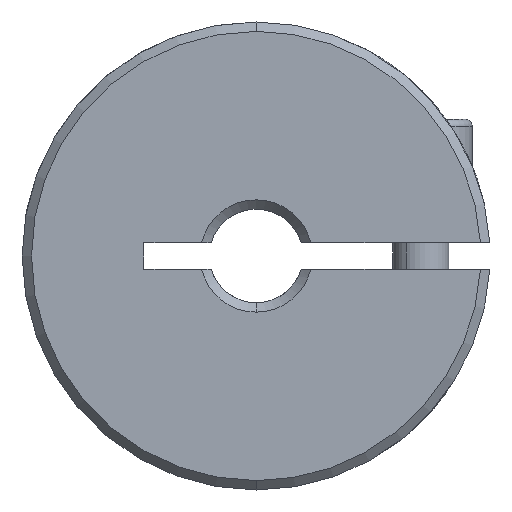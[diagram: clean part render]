
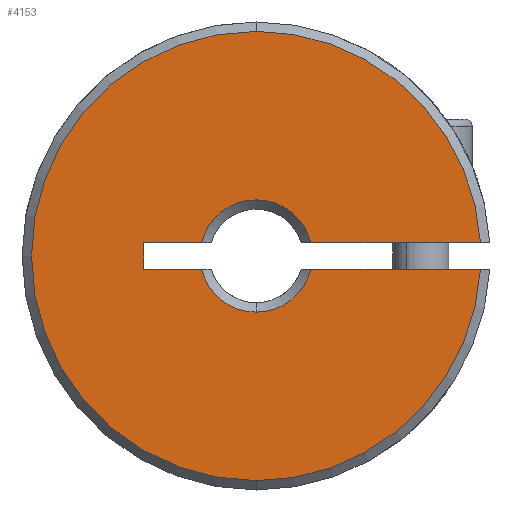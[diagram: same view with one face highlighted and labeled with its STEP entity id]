
A CAD part, front view. The second image highlights one B-rep face of the part: STEP entity #4153.
In plain terms, the highlighted planar face has unit normal (0, -1, 0).
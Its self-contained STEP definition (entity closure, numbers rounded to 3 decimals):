
#56 = LINE ( 'NONE', #4894, #616 ) ;
#105 = EDGE_LOOP ( 'NONE', ( #4904, #1041, #5617, #134, #2887, #4868, #2753, #501, #3084, #5427, #2677 ) ) ;
#118 = LINE ( 'NONE', #3620, #4687 ) ;
#134 = ORIENTED_EDGE ( 'NONE', *, *, #960, .T. ) ;
#153 = CARTESIAN_POINT ( 'NONE',  ( 2.917, 0.25, 0.7 ) ) ;
#177 = VERTEX_POINT ( 'NONE', #4846 ) ;
#233 = CIRCLE ( 'NONE', #959, 3. ) ;
#275 = AXIS2_PLACEMENT_3D ( 'NONE', #2443, #5544, #5428 ) ;
#326 = VERTEX_POINT ( 'NONE', #1557 ) ;
#335 = CARTESIAN_POINT ( 'NONE',  ( 0., 0.25, 0. ) ) ;
#489 = CARTESIAN_POINT ( 'NONE',  ( -2.917, 0.25, -0.7 ) ) ;
#501 = ORIENTED_EDGE ( 'NONE', *, *, #5461, .T. ) ;
#616 = VECTOR ( 'NONE', #895, 1000. ) ;
#663 = VERTEX_POINT ( 'NONE', #3890 ) ;
#674 = VERTEX_POINT ( 'NONE', #4807 ) ;
#766 = CARTESIAN_POINT ( 'NONE',  ( -6., 0.25, -0.7 ) ) ;
#885 = VECTOR ( 'NONE', #1690, 1000. ) ;
#886 = VERTEX_POINT ( 'NONE', #489 ) ;
#895 = DIRECTION ( 'NONE',  ( 0., 0., -1. ) ) ;
#927 = VERTEX_POINT ( 'NONE', #2259 ) ;
#959 = AXIS2_PLACEMENT_3D ( 'NONE', #1828, #1915, #2231 ) ;
#960 = EDGE_CURVE ( 'NONE', #663, #177, #1942, .T. ) ;
#1041 = ORIENTED_EDGE ( 'NONE', *, *, #3596, .T. ) ;
#1168 = CARTESIAN_POINT ( 'NONE',  ( -6., 0.25, 0.7 ) ) ;
#1230 = CIRCLE ( 'NONE', #4806, 12. ) ;
#1295 = VECTOR ( 'NONE', #5085, 1000. ) ;
#1412 = DIRECTION ( 'NONE',  ( 1., 0., 0. ) ) ;
#1501 = FACE_OUTER_BOUND ( 'NONE', #105, .T. ) ;
#1557 = CARTESIAN_POINT ( 'NONE',  ( 0., 0.25, -3. ) ) ;
#1650 = DIRECTION ( 'NONE',  ( 0., 1., 0. ) ) ;
#1690 = DIRECTION ( 'NONE',  ( 1., 0., 0. ) ) ;
#1702 = EDGE_CURVE ( 'NONE', #674, #886, #118, .T. ) ;
#1744 = LINE ( 'NONE', #2175, #4187 ) ;
#1828 = CARTESIAN_POINT ( 'NONE',  ( 0., 0.25, 0. ) ) ;
#1830 = DIRECTION ( 'NONE',  ( 0., -1., 0. ) ) ;
#1885 = EDGE_CURVE ( 'NONE', #927, #3624, #1744, .T. ) ;
#1915 = DIRECTION ( 'NONE',  ( 0., 1., 0. ) ) ;
#1942 = CIRCLE ( 'NONE', #5516, 12. ) ;
#2003 = CARTESIAN_POINT ( 'NONE',  ( 0., 0.25, -12. ) ) ;
#2009 = CARTESIAN_POINT ( 'NONE',  ( 0., 0.25, 0. ) ) ;
#2161 = DIRECTION ( 'NONE',  ( 0., 0., 1. ) ) ;
#2175 = CARTESIAN_POINT ( 'NONE',  ( -6., 0.25, 0.7 ) ) ;
#2231 = DIRECTION ( 'NONE',  ( 0., 0., 1. ) ) ;
#2259 = CARTESIAN_POINT ( 'NONE',  ( -2.917, 0.25, 0.7 ) ) ;
#2317 = EDGE_CURVE ( 'NONE', #3624, #674, #56, .T. ) ;
#2390 = LINE ( 'NONE', #1168, #1295 ) ;
#2403 = DIRECTION ( 'NONE',  ( 0., -1., 0. ) ) ;
#2443 = CARTESIAN_POINT ( 'NONE',  ( 0., 0.25, 0. ) ) ;
#2645 = AXIS2_PLACEMENT_3D ( 'NONE', #335, #3459, #4642 ) ;
#2677 = ORIENTED_EDGE ( 'NONE', *, *, #2317, .F. ) ;
#2696 = EDGE_CURVE ( 'NONE', #326, #886, #5675, .T. ) ;
#2753 = ORIENTED_EDGE ( 'NONE', *, *, #2968, .F. ) ;
#2761 = VERTEX_POINT ( 'NONE', #5146 ) ;
#2769 = CIRCLE ( 'NONE', #275, 3. ) ;
#2790 = CARTESIAN_POINT ( 'NONE',  ( -50., 0.25, 17.349 ) ) ;
#2823 = DIRECTION ( 'NONE',  ( 0., 1., 0. ) ) ;
#2849 = DIRECTION ( 'NONE',  ( 0., 0., 1. ) ) ;
#2887 = ORIENTED_EDGE ( 'NONE', *, *, #3073, .T. ) ;
#2968 = EDGE_CURVE ( 'NONE', #2761, #4384, #3410, .T. ) ;
#3073 = EDGE_CURVE ( 'NONE', #177, #3753, #4368, .T. ) ;
#3084 = ORIENTED_EDGE ( 'NONE', *, *, #2696, .T. ) ;
#3347 = EDGE_CURVE ( 'NONE', #3753, #4384, #1230, .T. ) ;
#3410 = LINE ( 'NONE', #766, #885 ) ;
#3459 = DIRECTION ( 'NONE',  ( 0., -1., 0. ) ) ;
#3570 = CARTESIAN_POINT ( 'NONE',  ( -6., 0.25, 0.7 ) ) ;
#3578 = VERTEX_POINT ( 'NONE', #153 ) ;
#3596 = EDGE_CURVE ( 'NONE', #927, #3578, #233, .T. ) ;
#3620 = CARTESIAN_POINT ( 'NONE',  ( -6., 0.25, -0.7 ) ) ;
#3624 = VERTEX_POINT ( 'NONE', #3570 ) ;
#3708 = PLANE ( 'NONE',  #4253 ) ;
#3753 = VERTEX_POINT ( 'NONE', #2003 ) ;
#3890 = CARTESIAN_POINT ( 'NONE',  ( 11.98, 0.25, 0.7 ) ) ;
#4153 = ADVANCED_FACE ( 'NONE', ( #1501 ), #3708, .F. ) ;
#4187 = VECTOR ( 'NONE', #5597, 1000. ) ;
#4253 = AXIS2_PLACEMENT_3D ( 'NONE', #2790, #2823, #2849 ) ;
#4368 = CIRCLE ( 'NONE', #2645, 12. ) ;
#4372 = CARTESIAN_POINT ( 'NONE',  ( 11.98, 0.25, -0.7 ) ) ;
#4384 = VERTEX_POINT ( 'NONE', #4372 ) ;
#4563 = AXIS2_PLACEMENT_3D ( 'NONE', #5587, #1650, #2161 ) ;
#4642 = DIRECTION ( 'NONE',  ( 0., 0., 1. ) ) ;
#4687 = VECTOR ( 'NONE', #1412, 1000. ) ;
#4806 = AXIS2_PLACEMENT_3D ( 'NONE', #2009, #2403, #5479 ) ;
#4807 = CARTESIAN_POINT ( 'NONE',  ( -6., 0.25, -0.7 ) ) ;
#4830 = CARTESIAN_POINT ( 'NONE',  ( 0., 0.25, 0. ) ) ;
#4846 = CARTESIAN_POINT ( 'NONE',  ( 0., 0.25, 12. ) ) ;
#4868 = ORIENTED_EDGE ( 'NONE', *, *, #3347, .T. ) ;
#4894 = CARTESIAN_POINT ( 'NONE',  ( -6., 0.25, -0.7 ) ) ;
#4904 = ORIENTED_EDGE ( 'NONE', *, *, #1885, .F. ) ;
#5085 = DIRECTION ( 'NONE',  ( -1., 0., 0. ) ) ;
#5103 = EDGE_CURVE ( 'NONE', #663, #3578, #2390, .T. ) ;
#5146 = CARTESIAN_POINT ( 'NONE',  ( 2.917, 0.25, -0.7 ) ) ;
#5266 = DIRECTION ( 'NONE',  ( 0., 0., 1. ) ) ;
#5427 = ORIENTED_EDGE ( 'NONE', *, *, #1702, .F. ) ;
#5428 = DIRECTION ( 'NONE',  ( 0., 0., 1. ) ) ;
#5461 = EDGE_CURVE ( 'NONE', #2761, #326, #2769, .T. ) ;
#5479 = DIRECTION ( 'NONE',  ( 0., 0., 1. ) ) ;
#5516 = AXIS2_PLACEMENT_3D ( 'NONE', #4830, #1830, #5266 ) ;
#5544 = DIRECTION ( 'NONE',  ( 0., 1., 0. ) ) ;
#5587 = CARTESIAN_POINT ( 'NONE',  ( 0., 0.25, 0. ) ) ;
#5597 = DIRECTION ( 'NONE',  ( -1., 0., 0. ) ) ;
#5617 = ORIENTED_EDGE ( 'NONE', *, *, #5103, .F. ) ;
#5675 = CIRCLE ( 'NONE', #4563, 3. ) ;
